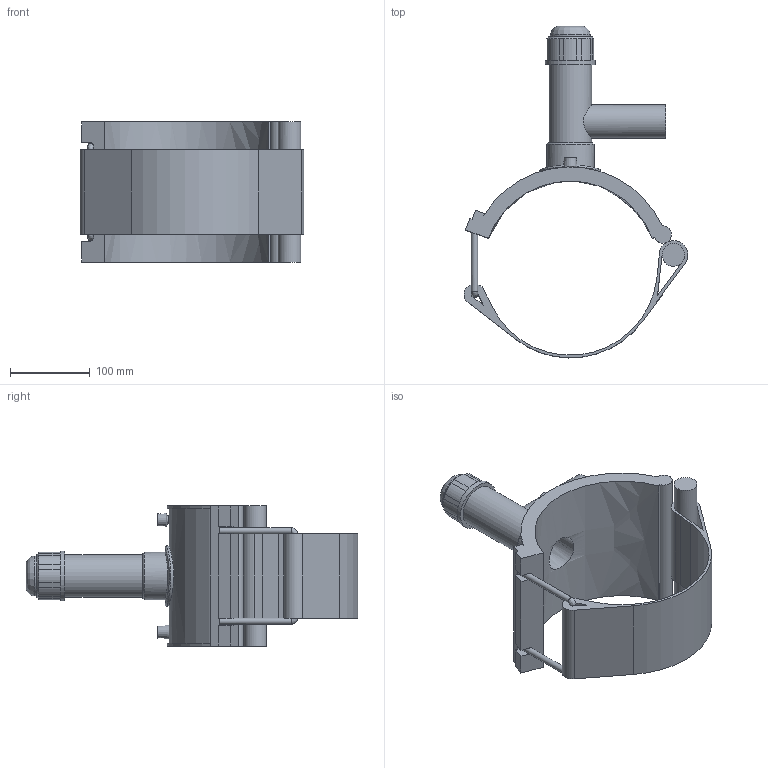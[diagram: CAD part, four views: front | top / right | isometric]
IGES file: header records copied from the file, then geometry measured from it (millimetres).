
Global section: file name: 5913BB03080013.ipt; native system: Autodesk Inventor 2019; preprocessor: unknown; author: KIM; date: 20210830.101040; units: millimetre
Bounding box: 280.96 x 416.78 x 176.02 mm (x, y, z)
Volume: 1542293.4 mm3; surface area: 332018.6 mm2
Topology: 2 solids, 2 shells, 124 faces, 314 edges, 195 vertices
Faces by surface type: plane 69, cylinder 29, revolution 12, cone 11, bspline 3
Full cylindrical faces by diameter (mm): 4 x2, 7.873 x2, 28.431 x1, 42.1 x1, 50.214 x1, 53.352 x1, 59.629 x1, 62.767 x1, 76.545 x1
